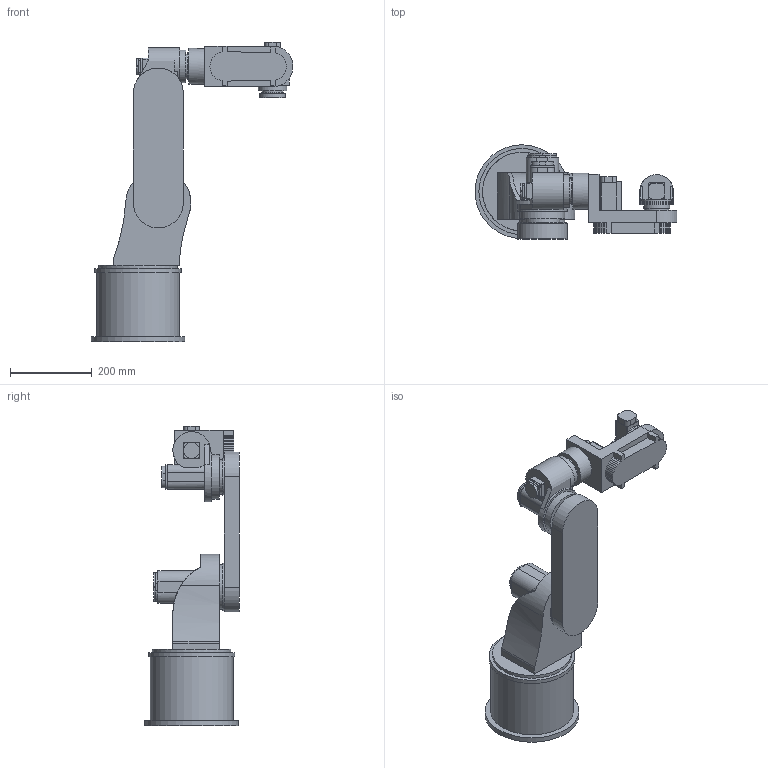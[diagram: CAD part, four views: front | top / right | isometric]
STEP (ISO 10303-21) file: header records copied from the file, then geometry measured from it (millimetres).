
FILE_DESCRIPTION(('Rosie 600 exterior CAD: one filled solid per link at the zero pose, millimetres'),'2;1');
FILE_NAME('rosie_600.step','2026-10-09T12:00:00',( 'Advanced Metal Research'),('Advanced Metal Research'),'AMR sim kit' ,'AMR sim kit','');
FILE_SCHEMA(('AUTOMOTIVE_DESIGN { 1 0 10303 214 1 1 1 1 }'));
Length unit declared in the file: millimetre
Products named in the file (8): rosie_600; base_link; link_1; link_2; link_3; link_4; link_5; link_6
Assembly tree (7 placements, depth 2):
  rosie_600
    base_link
    link_1
    link_2
    link_3
    link_4
    link_5
    link_6
Bounding box: 495 x 232 x 734.25 mm (x, y, z)
Volume: 15640591.5 mm3; surface area: 830553.2 mm2
Topology: 7 solids, 7 shells, 399 faces, 985 edges, 652 vertices
Faces by surface type: plane 273, cylinder 126
Full cylindrical faces by diameter (mm): 3.4 x8, 6 x5, 6.5 x8, 11 x6, 31.5 x1, 44.987 x1, 49.978 x1, 50.02 x1, 56 x1, 59.977 x1, 59.983 x1, 63 x1, 63.981 x1, 66 x1, 69.984 x1, 79.967 x1, 84.976 x2, 88 x1, 91 x1, 100 x1, 109.969 x1, 109.971 x1, 116 x1, 180 x1, 193.2 x1, 203.2 x1, 211.2 x1, 230 x1
Entity records: 12448 total; most frequent: CARTESIAN_POINT 2513, DIRECTION 2057, ORIENTED_EDGE 1970, EDGE_CURVE 985, LINE 689, VECTOR 689, AXIS2_PLACEMENT_3D 684, VERTEX_POINT 652
